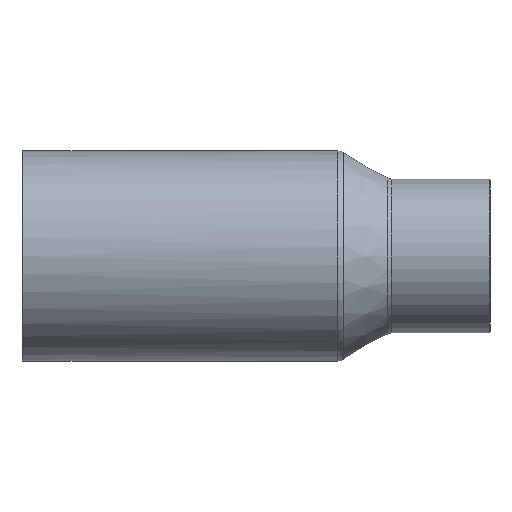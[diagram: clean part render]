
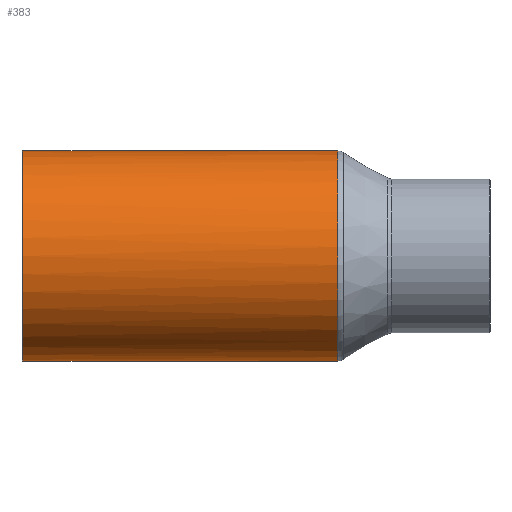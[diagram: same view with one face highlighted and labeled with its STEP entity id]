
A CAD part, front view. The second image highlights one B-rep face of the part: STEP entity #383.
In plain terms, the highlighted cylindrical face has radius 23.45 mm (diameter 46.9 mm), a full revolution.
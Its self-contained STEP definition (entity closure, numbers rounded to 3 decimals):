
#121=CARTESIAN_POINT('',(0.,0.0,-23.45));
#122=VERTEX_POINT('',#121);
#123=CARTESIAN_POINT('',(0.,0.0,23.45));
#124=VERTEX_POINT('',#123);
#309=CARTESIAN_POINT('',(-47.3,23.45,0.));
#310=VERTEX_POINT('',#309);
#311=CARTESIAN_POINT('',(-47.3,0.0,0.0));
#312=DIRECTION('',(-1.0,0.0,0.0));
#313=DIRECTION('',(0.0,-1.0,0.0));
#314=AXIS2_PLACEMENT_3D('',#311,#312,#313);
#315=CIRCLE('',#314,23.45);
#316=EDGE_CURVE('',#310,#310,#315,.T.);
#341=CARTESIAN_POINT('',(4.6,0.0,0.0));
#342=DIRECTION('',(1.0,0.0,0.0));
#343=DIRECTION('',(0.0,1.0,0.0));
#344=AXIS2_PLACEMENT_3D('',#341,#342,#343);
#345=CYLINDRICAL_SURFACE('',#344,23.45);
#346=CARTESIAN_POINT('',(22.845,18.83,13.976));
#347=VERTEX_POINT('',#346);
#348=CARTESIAN_POINT('',(22.845,18.83,-13.976));
#349=VERTEX_POINT('',#348);
#350=CARTESIAN_POINT('',(22.845,0.0,0.0));
#351=DIRECTION('',(1.0,0.0,0.0));
#352=DIRECTION('',(0.0,1.0,0.0));
#353=AXIS2_PLACEMENT_3D('',#350,#351,#352);
#354=CIRCLE('',#353,23.45);
#355=EDGE_CURVE('',#347,#349,#354,.T.);
#356=ORIENTED_EDGE('',*,*,#355,.F.);
#357=CARTESIAN_POINT('',(0.0,0.0,0.0));
#358=DIRECTION('',(-0.636,0.772,0.0));
#359=DIRECTION('',(0.772,0.636,0.0));
#360=AXIS2_PLACEMENT_3D('',#357,#358,#359);
#361=ELLIPSE('',#360,36.869,23.45);
#362=EDGE_CURVE('',#124,#347,#361,.T.);
#363=ORIENTED_EDGE('',*,*,#362,.F.);
#364=CARTESIAN_POINT('',(0.0,0.0,0.0));
#365=DIRECTION('',(0.636,0.772,0.0));
#366=DIRECTION('',(-0.772,0.636,0.0));
#367=AXIS2_PLACEMENT_3D('',#364,#365,#366);
#368=ELLIPSE('',#367,36.869,23.45);
#369=EDGE_CURVE('',#122,#124,#368,.T.);
#370=ORIENTED_EDGE('',*,*,#369,.F.);
#371=CARTESIAN_POINT('',(0.0,0.0,0.0));
#372=DIRECTION('',(-0.636,0.772,0.0));
#373=DIRECTION('',(0.772,0.636,0.0));
#374=AXIS2_PLACEMENT_3D('',#371,#372,#373);
#375=ELLIPSE('',#374,36.869,23.45);
#376=EDGE_CURVE('',#349,#122,#375,.T.);
#377=ORIENTED_EDGE('',*,*,#376,.F.);
#378=EDGE_LOOP('',(#356,#363,#370,#377));
#379=FACE_OUTER_BOUND('',#378,.T.);
#380=ORIENTED_EDGE('',*,*,#316,.F.);
#381=EDGE_LOOP('',(#380));
#382=FACE_BOUND('',#381,.T.);
#383=ADVANCED_FACE('',(#379,#382),#345,.T.);
